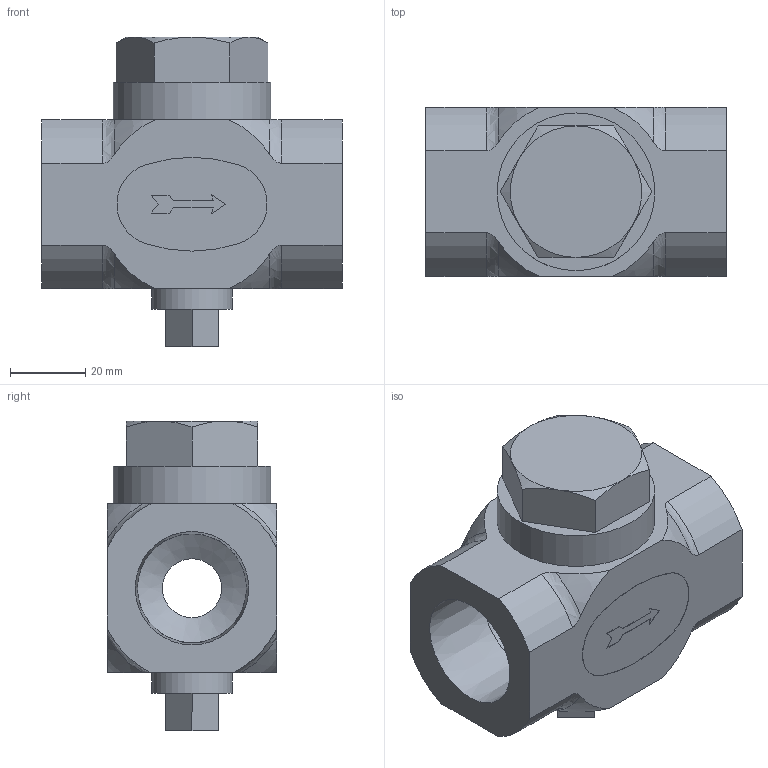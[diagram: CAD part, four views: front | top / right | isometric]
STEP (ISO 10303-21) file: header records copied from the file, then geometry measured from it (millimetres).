
FILE_DESCRIPTION(/* description */ ('ベン'),/* implementation_level */ '2;1');
FILE_NAME(/* name */ 'C:\Users\Fujimoto-s\OneDrive\Inventor\WorkSpace\\X2\305D306E4ED6\X0\\ホームページ用\\X2\30C030A630F330ED30FC30C97D206750\X0\\ねじ込み継手\AT6-N×25A\AT6-N×25A.stp',/* time_stamp */ '2024-08-08T09:25:31+09:00',/* author */ ('Fujimoto-s'),/* organization */ (''),/* preprocessor_version */ 'ST-DEVELOPER v15.2',/* originating_system */ 'Autodesk Inventor 2014',/* authorisation */ '');
FILE_SCHEMA (('AUTOMOTIVE_DESIGN { 1 0 10303 214 3 1 1 }'));
Length unit declared in the file: millimetre
Products named in the file (1): AT6-N×25A
Bounding box: 80 x 45 x 82.5 mm (x, y, z)
Volume: 130834.9 mm3; surface area: 26768.8 mm2
Topology: 1 solids, 1 shells, 76 faces, 196 edges, 128 vertices
Faces by surface type: plane 34, cylinder 16, cone 10, torus 8, sphere 8
Full cylindrical faces by diameter (mm): 21.38 x1, 29 x2, 42 x1
Entity records: 2366 total; most frequent: CARTESIAN_POINT 523, DIRECTION 376, ORIENTED_EDGE 370, EDGE_CURVE 185, AXIS2_PLACEMENT_3D 142, VERTEX_POINT 125, LINE 92, VECTOR 92
